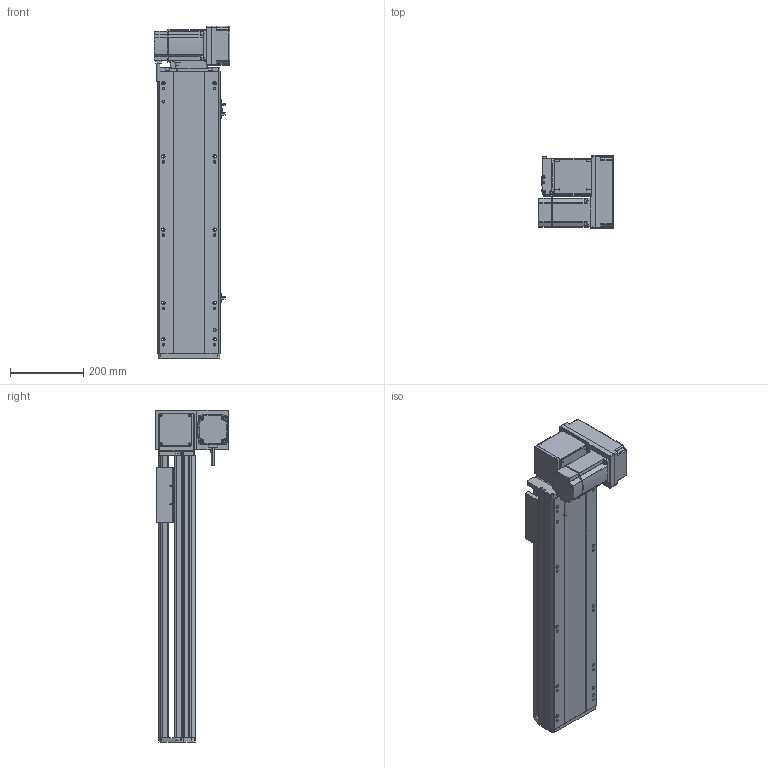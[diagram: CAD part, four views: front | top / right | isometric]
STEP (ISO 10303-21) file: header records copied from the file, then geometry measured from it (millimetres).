
FILE_DESCRIPTION (( 'STEP AP214' ), '1' );
FILE_NAME ('RTB17S-XX-500-RM-M75-C4.STEP', '2025-12-12T02:02:18', ( '' ), ( '' ), 'SwSTEP 2.0', 'SolidWorks 2018', '' );
FILE_SCHEMA (( 'AUTOMOTIVE_DESIGN' ));
Length unit declared in the file: millimetre
Products named in the file (15): RTB17-R-011菁釱^RTB17S-XX-XX-RM-M75-C4; RTB17S-XX-500-RM-M75-C4; RTB22S-GY-018P^RTB17S-RM-々湍釱蚾饜-750W_RTB17S-XX-XX-RM-M75-C4; RTB22S-GY-005P^RTB17S-RM-々湍釱蚾饜-750W_RTB17S-XX-XX-RM-M75-C4; RTH13-BL-012覜茼え俋离^RTB17S-賑釱_RTB17S-XX-XX-RM-M75-C4; RTB17S-L-014-T20-P75--々湍釱^RTB17S-RM-々湍釱蚾饜-750W_RTB17S-XX-XX-RM-M75-C4; 750W萇儂^RTB17S-XX-XX-RM-M75-C4; RTB17S-賑釱^RTB17S-XX-XX-RM-M75-C4; RTB22S-GY-008-M75--萇儂啣^RTB17S-RM-々湍釱蚾饜-750W_RTB17S-XX-XX-RM-M75-C4; RTB22S-GY-017P^RTB17S-RM-々湍釱蚾饜-750W_RTB17S-XX-XX-RM-M75-C4; RTB17S-L-001-耜醱啣^RTB17S-XX-XX-RM-M75-C4; EE672^RTB17S-XX-XX-RM-M75-C4; RTB17S-L-004-賑釱^RTB17S-賑釱_RTB17S-XX-XX-RM-M75-C4; RTB17S-L-007奻裔^RTB17S-XX-XX-RM-M75-C4; RTB17S-RM-々湍釱蚾饜-750W^RTB17S-XX-XX-RM-M75-C4
Assembly tree (17 placements, depth 3):
  RTB17S-XX-500-RM-M75-C4
    RTB17-R-011菁釱^RTB17S-XX-XX-RM-M75-C4
    EE672^RTB17S-XX-XX-RM-M75-C4  x3
    RTB17S-L-001-耜醱啣^RTB17S-XX-XX-RM-M75-C4
    RTB17S-賑釱^RTB17S-XX-XX-RM-M75-C4
      RTB17S-L-004-賑釱^RTB17S-賑釱_RTB17S-XX-XX-RM-M75-C4
      RTH13-BL-012覜茼え俋离^RTB17S-賑釱_RTB17S-XX-XX-RM-M75-C4
    RTB17S-L-007奻裔^RTB17S-XX-XX-RM-M75-C4
    750W萇儂^RTB17S-XX-XX-RM-M75-C4
    RTB17S-RM-々湍釱蚾饜-750W^RTB17S-XX-XX-RM-M75-C4
      RTB17S-L-014-T20-P75--々湍釱^RTB17S-RM-々湍釱蚾饜-750W_RTB17S-XX-XX-RM-M75-C4
      RTB22S-GY-005P^RTB17S-RM-々湍釱蚾饜-750W_RTB17S-XX-XX-RM-M75-C4
      RTB22S-GY-017P^RTB17S-RM-々湍釱蚾饜-750W_RTB17S-XX-XX-RM-M75-C4  x2
      RTB22S-GY-008-M75--萇儂啣^RTB17S-RM-々湍釱蚾饜-750W_RTB17S-XX-XX-RM-M75-C4
      RTB22S-GY-018P^RTB17S-RM-々湍釱蚾饜-750W_RTB17S-XX-XX-RM-M75-C4
Bounding box: 207.4 x 200 x 907.5 mm (x, y, z)
Volume: 9072938.5 mm3; surface area: 1457653.8 mm2
Topology: 17 solids, 17 shells, 2057 faces, 5674 edges, 3662 vertices
Faces by surface type: plane 966, cylinder 675, bspline 294, cone 110, sphere 8, torus 4
Entity records: 56566 total; most frequent: CARTESIAN_POINT 16538, ORIENTED_EDGE 8192, DIRECTION 7682, EDGE_CURVE 4096, AXIS2_PLACEMENT_3D 2682, VERTEX_POINT 2666, VECTOR 2318, LINE 2318
